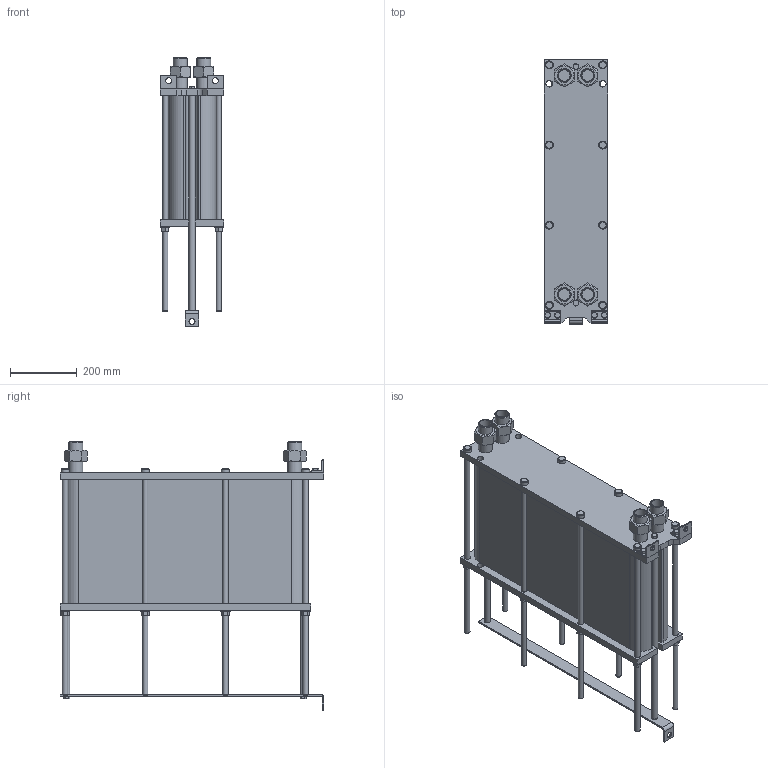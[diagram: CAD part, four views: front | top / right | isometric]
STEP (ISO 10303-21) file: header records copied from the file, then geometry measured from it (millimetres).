
FILE_DESCRIPTION(/* description */ (''),/* implementation_level */ '2;1');
FILE_NAME(/* name */ 'C:\Users\zhuro\Desktop\ENCO\TO\ЭН-008\ЭН-0,5-008-120-1.stp',/* time_stamp */ '2022-06-06T10:56:51+03:00',/* author */ ('zhuro'),/* organization */ (''),/* preprocessor_version */ 'ST-DEVELOPER v18.1',/* originating_system */ 'Autodesk Inventor 2022',/* authorisation */ '');
FILE_SCHEMA (('AUTOMOTIVE_DESIGN { 1 0 10303 214 3 1 1 }'));
Length unit declared in the file: millimetre
Products named in the file (1): ЭН-0,5-008-120-1
Bounding box: 190 x 790 x 805 mm (x, y, z)
Volume: 44975460.5 mm3; surface area: 2190701.4 mm2
Topology: 40 solids, 40 shells, 428 faces, 924 edges, 606 vertices
Faces by surface type: plane 273, cylinder 109, cone 40, torus 6
Full cylindrical faces by diameter (mm): 12 x6, 14 x2, 16 x20, 17 x8, 18 x19, 20 x5, 24 x8, 28 x8, 34.3 x8, 42.3 x8
Entity records: 15843 total; most frequent: CARTESIAN_POINT 5991, DIRECTION 1984, ORIENTED_EDGE 1848, EDGE_CURVE 924, AXIS2_PLACEMENT_3D 715, VERTEX_POINT 606, LINE 554, VECTOR 554
